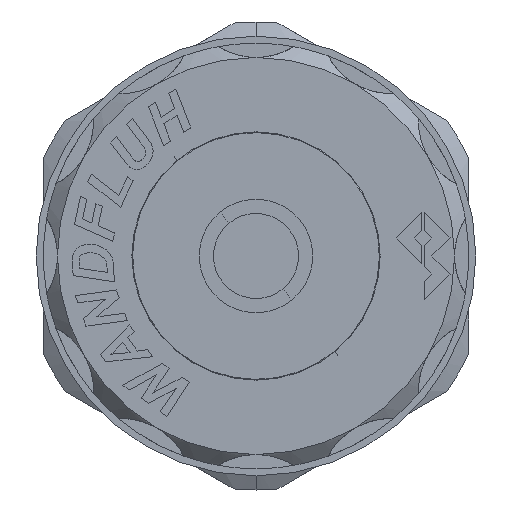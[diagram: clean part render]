
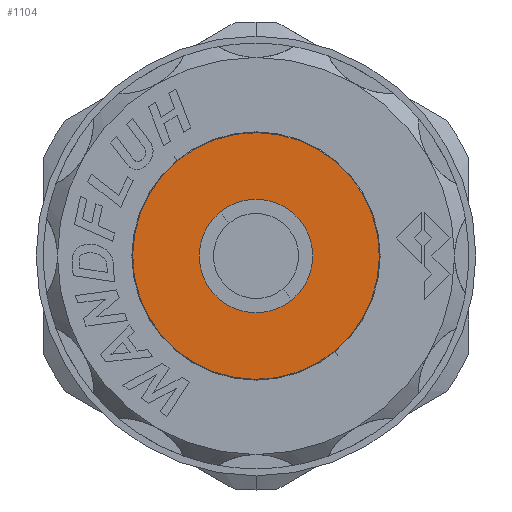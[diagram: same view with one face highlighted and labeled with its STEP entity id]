
A CAD part, left-side view. The second image highlights one B-rep face of the part: STEP entity #1104.
In plain terms, the highlighted planar face has unit normal (-1, 0, 0).
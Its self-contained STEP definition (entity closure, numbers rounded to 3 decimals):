
#942 = EDGE_CURVE ( 'NONE', #1309, #1310, #5881, .T. ) ;
#953 = EDGE_CURVE ( 'NONE', #1319, #1320, #5885, .T. ) ;
#1104 = ADVANCED_FACE ( 'NONE', ( #10400, #10405 ), #10445, .F. ) ;
#1309 = VERTEX_POINT ( 'NONE', #11008 ) ;
#1310 = VERTEX_POINT ( 'NONE', #11264 ) ;
#1319 = VERTEX_POINT ( 'NONE', #11273 ) ;
#1320 = VERTEX_POINT ( 'NONE', #11274 ) ;
#2182 = ORIENTED_EDGE ( 'NONE', *, *, #2265, .T. ) ;
#2183 = ORIENTED_EDGE ( 'NONE', *, *, #2264, .F. ) ;
#2185 = ORIENTED_EDGE ( 'NONE', *, *, #942, .F. ) ;
#2187 = ORIENTED_EDGE ( 'NONE', *, *, #953, .T. ) ;
#2264 = EDGE_CURVE ( 'NONE', #1310, #1309, #6045, .T. ) ;
#2265 = EDGE_CURVE ( 'NONE', #1320, #1319, #6048, .T. ) ;
#2864 = EDGE_LOOP ( 'NONE', ( #2183, #2185 ) ) ;
#2865 = EDGE_LOOP ( 'NONE', ( #2182, #2187 ) ) ;
#5881 = CIRCLE ( 'NONE', #9743, 4. ) ;
#5885 = CIRCLE ( 'NONE', #9753, 8.7 ) ;
#6045 = CIRCLE ( 'NONE', #11648, 4. ) ;
#6048 = CIRCLE ( 'NONE', #11649, 8.7 ) ;
#9694 = CARTESIAN_POINT ( 'NONE',  ( -78.4, 0., 0. ) ) ;
#9695 = DIRECTION ( 'NONE',  ( -1., 0., 0. ) ) ;
#9696 = DIRECTION ( 'NONE',  ( 0., 0., 1. ) ) ;
#9721 = CARTESIAN_POINT ( 'NONE',  ( -78.4, 0., 0. ) ) ;
#9728 = DIRECTION ( 'NONE',  ( -1., 0., 0. ) ) ;
#9729 = DIRECTION ( 'NONE',  ( 0., -0.635, -0.772 ) ) ;
#9743 = AXIS2_PLACEMENT_3D ( 'NONE', #9694, #9695, #9696 ) ;
#9753 = AXIS2_PLACEMENT_3D ( 'NONE', #9721, #9728, #9729 ) ;
#10400 = FACE_BOUND ( 'NONE', #2864, .T. ) ;
#10405 = FACE_OUTER_BOUND ( 'NONE', #2865, .T. ) ;
#10407 = AXIS2_PLACEMENT_3D ( 'NONE', #10446, #10447, #10448 ) ;
#10445 = PLANE ( 'NONE',  #10407 ) ;
#10446 = CARTESIAN_POINT ( 'NONE',  ( -78.4, 0., 0. ) ) ;
#10447 = DIRECTION ( 'NONE',  ( 1., 0., 0. ) ) ;
#10448 = DIRECTION ( 'NONE',  ( 0., -0.635, -0.772 ) ) ;
#11008 = CARTESIAN_POINT ( 'NONE',  ( -78.4, 0., -4. ) ) ;
#11264 = CARTESIAN_POINT ( 'NONE',  ( -78.4, 0., 4. ) ) ;
#11273 = CARTESIAN_POINT ( 'NONE',  ( -78.4, 5.526, 6.72 ) ) ;
#11274 = CARTESIAN_POINT ( 'NONE',  ( -78.4, -5.526, -6.72 ) ) ;
#11592 = CARTESIAN_POINT ( 'NONE',  ( -78.4, 0., 0. ) ) ;
#11593 = DIRECTION ( 'NONE',  ( -1., 0., 0. ) ) ;
#11594 = DIRECTION ( 'NONE',  ( 0., 0., 1. ) ) ;
#11595 = CARTESIAN_POINT ( 'NONE',  ( -78.4, 0., 0. ) ) ;
#11596 = DIRECTION ( 'NONE',  ( -1., 0., 0. ) ) ;
#11597 = DIRECTION ( 'NONE',  ( 0., -0.635, -0.772 ) ) ;
#11648 = AXIS2_PLACEMENT_3D ( 'NONE', #11592, #11593, #11594 ) ;
#11649 = AXIS2_PLACEMENT_3D ( 'NONE', #11595, #11596, #11597 ) ;
